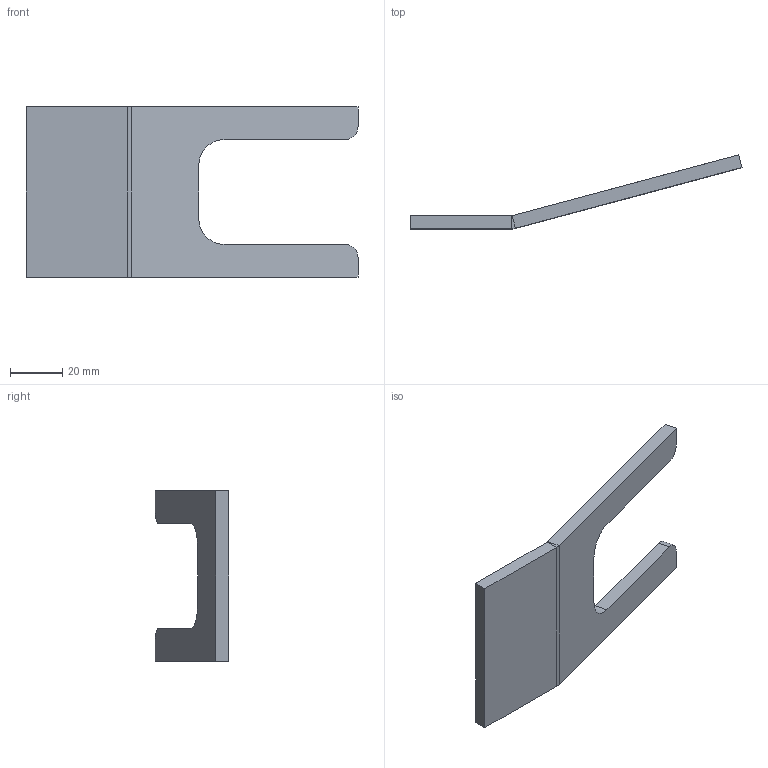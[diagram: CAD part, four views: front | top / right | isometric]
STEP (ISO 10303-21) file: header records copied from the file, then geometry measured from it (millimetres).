
FILE_DESCRIPTION (( 'STEP AP203' ), '1' );
FILE_NAME ('4148_STAFFA_PICCOLA_SPESSORE_5.STEP', '2019-02-20T18:45:22', ( '' ), ( '' ), 'SwSTEP 2.0', 'SolidWorks 2019', '' );
FILE_SCHEMA (( 'CONFIG_CONTROL_DESIGN' ));
Length unit declared in the file: millimetre
Products named in the file (1): 4148_STAFFA_PICCOLA_SPESSORE_5
Bounding box: 126.84 x 28.24 x 65 mm (x, y, z)
Volume: 29571 mm3; surface area: 14336.7 mm2
Topology: 1 solids, 1 shells, 22 faces, 52 edges, 32 vertices
Faces by surface type: plane 16, cylinder 6
Entity records: 701 total; most frequent: DIRECTION 110, CARTESIAN_POINT 107, ORIENTED_EDGE 104, EDGE_CURVE 52, VECTOR 40, LINE 40, AXIS2_PLACEMENT_3D 35, VERTEX_POINT 32
